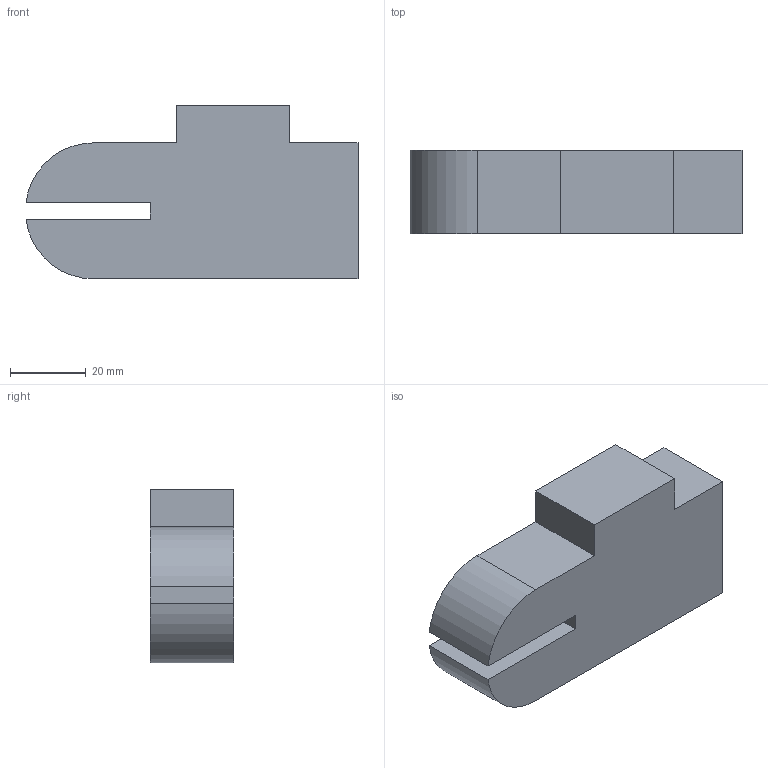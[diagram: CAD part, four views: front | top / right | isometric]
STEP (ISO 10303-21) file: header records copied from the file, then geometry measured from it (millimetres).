
FILE_DESCRIPTION(('FreeCAD Model'),'2;1');
FILE_NAME('Open CASCADE Shape Model','2026-11-08T23:31:28',('FreeCAD'),( 'FreeCAD'),'Open CASCADE STEP processor 7.8','FreeCAD','Unknown');
FILE_SCHEMA(('AUTOMOTIVE_DESIGN { 1 0 10303 214 1 1 1 1 }'));
Length unit declared in the file: millimetre
Products named in the file (1): Open CASCADE STEP translator 7.8 4
Bounding box: 87.86 x 22 x 46 mm (x, y, z)
Volume: 69811 mm3; surface area: 13746.8 mm2
Topology: 1 solids, 1 shells, 22 faces, 48 edges, 32 vertices
Faces by surface type: plane 16, cylinder 6
Full cylindrical faces by diameter (mm): 2.5 x4
Entity records: 614 total; most frequent: DIRECTION 106, CARTESIAN_POINT 103, ORIENTED_EDGE 96, EDGE_CURVE 48, LINE 36, VECTOR 36, AXIS2_PLACEMENT_3D 35, VERTEX_POINT 32
